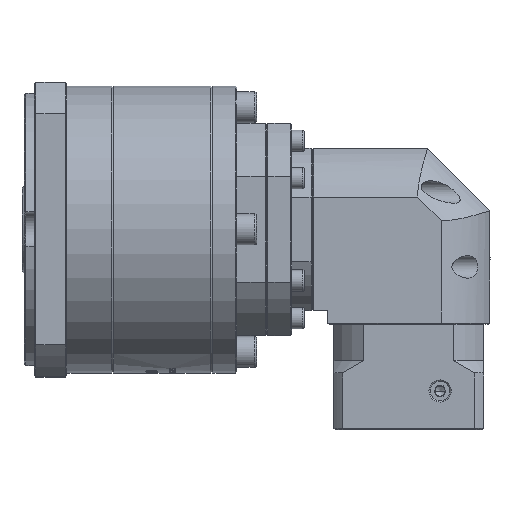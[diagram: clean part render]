
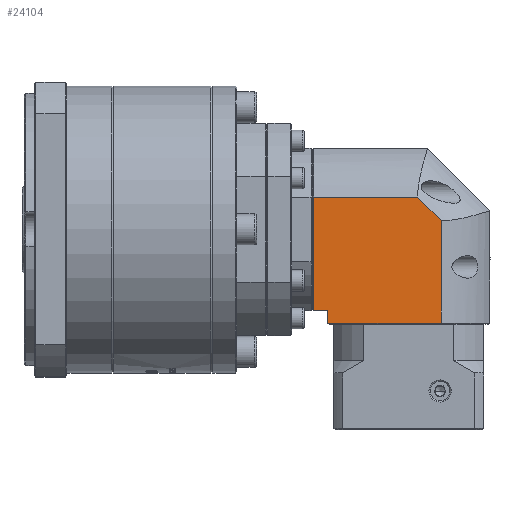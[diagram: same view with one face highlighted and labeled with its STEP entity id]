
A CAD part, top view. The second image highlights one B-rep face of the part: STEP entity #24104.
In plain terms, the highlighted planar face has unit normal (0, 0, 1).
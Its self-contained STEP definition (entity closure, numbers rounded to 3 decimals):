
#4441 = VECTOR ( 'NONE', #152759, 1000. ) ;
#7192 = ORIENTED_EDGE ( 'NONE', *, *, #100054, .F. ) ;
#9810 = VERTEX_POINT ( 'NONE', #164560 ) ;
#10845 = CARTESIAN_POINT ( 'NONE',  ( -34.626, -45.373, -90.888 ) ) ;
#14783 = ORIENTED_EDGE ( 'NONE', *, *, #79303, .F. ) ;
#15915 = CARTESIAN_POINT ( 'NONE',  ( -30.326, 19.627, -90.888 ) ) ;
#17622 = ORIENTED_EDGE ( 'NONE', *, *, #159467, .F. ) ;
#20915 = CARTESIAN_POINT ( 'NONE',  ( -30.326, -45.373, -90.888 ) ) ;
#24104 = ADVANCED_FACE ( 'NONE', ( #119622 ), #76623, .F. ) ;
#26943 = VERTEX_POINT ( 'NONE', #112723 ) ;
#28290 = DIRECTION ( 'NONE',  ( 0., 1., 0. ) ) ;
#31100 = LINE ( 'NONE', #10845, #163934 ) ;
#33586 = CARTESIAN_POINT ( 'NONE',  ( -24.626, -45.373, -90.888 ) ) ;
#35512 = DIRECTION ( 'NONE',  ( 1., 0., 0. ) ) ;
#36067 = CARTESIAN_POINT ( 'NONE',  ( -34.626, 0.117, -90.888 ) ) ;
#36727 = VECTOR ( 'NONE', #66324, 1000. ) ;
#38431 = CARTESIAN_POINT ( 'NONE',  ( -34.626, 19.627, -90.888 ) ) ;
#38735 = LINE ( 'NONE', #152191, #4441 ) ;
#40232 = VERTEX_POINT ( 'NONE', #102345 ) ;
#42831 = EDGE_CURVE ( 'NONE', #26943, #110382, #38735, .T. ) ;
#44725 = LINE ( 'NONE', #156311, #36727 ) ;
#44933 = VERTEX_POINT ( 'NONE', #20915 ) ;
#49622 = EDGE_LOOP ( 'NONE', ( #148604, #113637, #7192, #61302, #17622, #14783, #153005 ) ) ;
#51389 = DIRECTION ( 'NONE',  ( -1., 0., 0. ) ) ;
#56472 = LINE ( 'NONE', #15915, #124919 ) ;
#61302 = ORIENTED_EDGE ( 'NONE', *, *, #89638, .F. ) ;
#66324 = DIRECTION ( 'NONE',  ( 0., -1., 0. ) ) ;
#71521 = LINE ( 'NONE', #163237, #135973 ) ;
#76623 = PLANE ( 'NONE',  #139277 ) ;
#79303 = EDGE_CURVE ( 'NONE', #107803, #9810, #71521, .T. ) ;
#89638 = EDGE_CURVE ( 'NONE', #131863, #44933, #31100, .T. ) ;
#90696 = LINE ( 'NONE', #36067, #159165 ) ;
#100054 = EDGE_CURVE ( 'NONE', #44933, #40232, #56472, .T. ) ;
#100719 = CARTESIAN_POINT ( 'NONE',  ( 20.864, -50.373, -90.888 ) ) ;
#101758 = EDGE_CURVE ( 'NONE', #40232, #26943, #90696, .T. ) ;
#102345 = CARTESIAN_POINT ( 'NONE',  ( -30.326, 0.117, -90.888 ) ) ;
#107803 = VERTEX_POINT ( 'NONE', #100719 ) ;
#110382 = VERTEX_POINT ( 'NONE', #111341 ) ;
#111341 = CARTESIAN_POINT ( 'NONE',  ( 20.864, -9.38, -90.888 ) ) ;
#112723 = CARTESIAN_POINT ( 'NONE',  ( 11.367, 0.117, -90.888 ) ) ;
#113637 = ORIENTED_EDGE ( 'NONE', *, *, #101758, .F. ) ;
#119622 = FACE_OUTER_BOUND ( 'NONE', #49622, .T. ) ;
#124919 = VECTOR ( 'NONE', #28290, 1000. ) ;
#125607 = DIRECTION ( 'NONE',  ( -1., 0., 0. ) ) ;
#128460 = DIRECTION ( 'NONE',  ( 0., 0., -1. ) ) ;
#131863 = VERTEX_POINT ( 'NONE', #33586 ) ;
#132938 = CARTESIAN_POINT ( 'NONE',  ( -24.626, 19.627, -90.888 ) ) ;
#133465 = LINE ( 'NONE', #132938, #159563 ) ;
#135973 = VECTOR ( 'NONE', #125607, 1000. ) ;
#139277 = AXIS2_PLACEMENT_3D ( 'NONE', #38431, #128460, #51389 ) ;
#145855 = DIRECTION ( 'NONE',  ( 0., 1., 0. ) ) ;
#148604 = ORIENTED_EDGE ( 'NONE', *, *, #42831, .F. ) ;
#152191 = CARTESIAN_POINT ( 'NONE',  ( 11.367, 0.117, -90.888 ) ) ;
#152759 = DIRECTION ( 'NONE',  ( 0.707, -0.707, 0. ) ) ;
#153005 = ORIENTED_EDGE ( 'NONE', *, *, #156130, .F. ) ;
#156130 = EDGE_CURVE ( 'NONE', #110382, #107803, #44725, .T. ) ;
#156311 = CARTESIAN_POINT ( 'NONE',  ( 20.864, 19.627, -90.888 ) ) ;
#159165 = VECTOR ( 'NONE', #35512, 1000. ) ;
#159467 = EDGE_CURVE ( 'NONE', #9810, #131863, #133465, .T. ) ;
#159563 = VECTOR ( 'NONE', #145855, 1000. ) ;
#163237 = CARTESIAN_POINT ( 'NONE',  ( -34.626, -50.373, -90.888 ) ) ;
#163934 = VECTOR ( 'NONE', #166054, 1000. ) ;
#164560 = CARTESIAN_POINT ( 'NONE',  ( -24.626, -50.373, -90.888 ) ) ;
#166054 = DIRECTION ( 'NONE',  ( -1., 0., 0. ) ) ;
